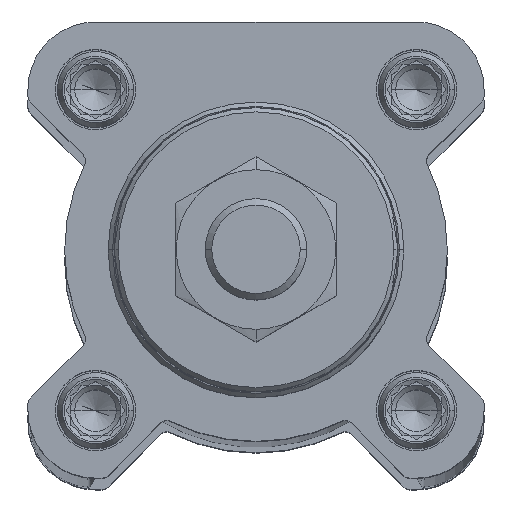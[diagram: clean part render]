
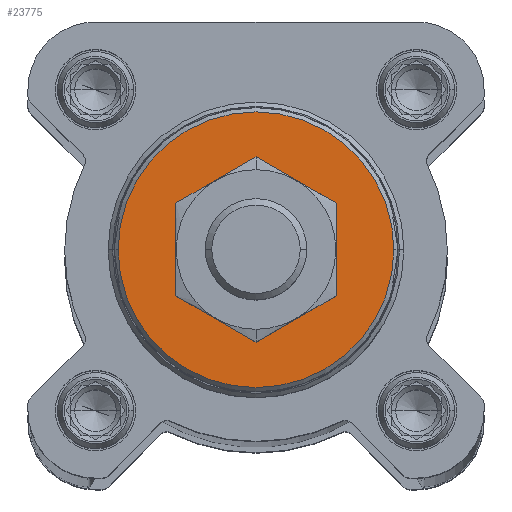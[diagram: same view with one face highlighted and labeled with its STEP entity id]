
A CAD part, top view. The second image highlights one B-rep face of the part: STEP entity #23775.
In plain terms, the highlighted planar face has unit normal (0, 0, 1).
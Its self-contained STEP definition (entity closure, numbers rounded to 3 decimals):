
#513 = CIRCLE ( 'NONE', #23439, 8. ) ;
#788 = DIRECTION ( 'NONE',  ( 0., 0., -1. ) ) ;
#1286 = EDGE_CURVE ( 'NONE', #22707, #3119, #4873, .T. ) ;
#2097 = EDGE_CURVE ( 'NONE', #22788, #20269, #20489, .T. ) ;
#3119 = VERTEX_POINT ( 'NONE', #22067 ) ;
#3142 = AXIS2_PLACEMENT_3D ( 'NONE', #16047, #9167, #9317 ) ;
#3241 = DIRECTION ( 'NONE',  ( -1., 0., 0. ) ) ;
#3305 = AXIS2_PLACEMENT_3D ( 'NONE', #18234, #788, #3241 ) ;
#4873 = CIRCLE ( 'NONE', #25536, 16.32 ) ;
#5632 = CARTESIAN_POINT ( 'NONE',  ( 0., 0., 221.3 ) ) ;
#6222 = CARTESIAN_POINT ( 'NONE',  ( 8., 0., 221.3 ) ) ;
#7540 = CIRCLE ( 'NONE', #3305, 16.32 ) ;
#8165 = EDGE_LOOP ( 'NONE', ( #8426, #23680 ) ) ;
#8426 = ORIENTED_EDGE ( 'NONE', *, *, #26127, .F. ) ;
#9154 = CARTESIAN_POINT ( 'NONE',  ( 16.32, 0., 221.3 ) ) ;
#9167 = DIRECTION ( 'NONE',  ( 0., 0., -1. ) ) ;
#9205 = FACE_OUTER_BOUND ( 'NONE', #8165, .T. ) ;
#9317 = DIRECTION ( 'NONE',  ( -1., 0., 0. ) ) ;
#13896 = ORIENTED_EDGE ( 'NONE', *, *, #25136, .T. ) ;
#16047 = CARTESIAN_POINT ( 'NONE',  ( 0., 0., 221.3 ) ) ;
#16295 = AXIS2_PLACEMENT_3D ( 'NONE', #22526, #17287, #19515 ) ;
#17287 = DIRECTION ( 'NONE',  ( 0., 0., -1. ) ) ;
#18234 = CARTESIAN_POINT ( 'NONE',  ( 0., 0., 221.3 ) ) ;
#19220 = CARTESIAN_POINT ( 'NONE',  ( -8., 0., 221.3 ) ) ;
#19515 = DIRECTION ( 'NONE',  ( 0., -1., 0. ) ) ;
#20269 = VERTEX_POINT ( 'NONE', #6222 ) ;
#20489 = CIRCLE ( 'NONE', #3142, 8. ) ;
#21014 = DIRECTION ( 'NONE',  ( 0., 0., -1. ) ) ;
#22067 = CARTESIAN_POINT ( 'NONE',  ( -16.32, 0., 221.3 ) ) ;
#22447 = EDGE_LOOP ( 'NONE', ( #23461, #13896 ) ) ;
#22526 = CARTESIAN_POINT ( 'NONE',  ( 0., 0., 221.3 ) ) ;
#22707 = VERTEX_POINT ( 'NONE', #9154 ) ;
#22788 = VERTEX_POINT ( 'NONE', #19220 ) ;
#23439 = AXIS2_PLACEMENT_3D ( 'NONE', #25174, #21014, #27843 ) ;
#23461 = ORIENTED_EDGE ( 'NONE', *, *, #2097, .T. ) ;
#23680 = ORIENTED_EDGE ( 'NONE', *, *, #1286, .F. ) ;
#23775 = ADVANCED_FACE ( 'NONE', ( #9205, #26443 ), #24609, .F. ) ;
#24609 = PLANE ( 'NONE',  #16295 ) ;
#25136 = EDGE_CURVE ( 'NONE', #20269, #22788, #513, .T. ) ;
#25174 = CARTESIAN_POINT ( 'NONE',  ( 0., 0., 221.3 ) ) ;
#25536 = AXIS2_PLACEMENT_3D ( 'NONE', #5632, #25747, #28281 ) ;
#25747 = DIRECTION ( 'NONE',  ( 0., 0., -1. ) ) ;
#26127 = EDGE_CURVE ( 'NONE', #3119, #22707, #7540, .T. ) ;
#26443 = FACE_BOUND ( 'NONE', #22447, .T. ) ;
#27843 = DIRECTION ( 'NONE',  ( -1., 0., 0. ) ) ;
#28281 = DIRECTION ( 'NONE',  ( -1., 0., 0. ) ) ;
